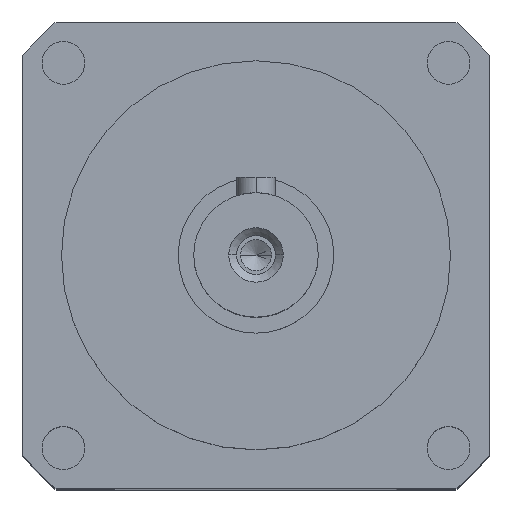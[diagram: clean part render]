
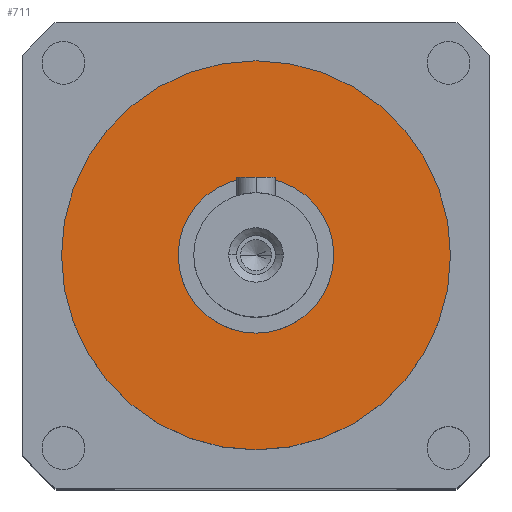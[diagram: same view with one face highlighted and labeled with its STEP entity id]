
A CAD part, top view. The second image highlights one B-rep face of the part: STEP entity #711.
In plain terms, the highlighted planar face has unit normal (0, 0, 1).
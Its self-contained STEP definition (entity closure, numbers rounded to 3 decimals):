
#46 = FACE_OUTER_BOUND ( 'NONE', #3161, .T. ) ;
#91 = EDGE_CURVE ( 'NONE', #4003, #3937, #2908, .T. ) ;
#416 = AXIS2_PLACEMENT_3D ( 'NONE', #1252, #3747, #1899 ) ;
#638 = CARTESIAN_POINT ( 'NONE',  ( 25., 0., 7. ) ) ;
#689 = CIRCLE ( 'NONE', #2304, 25. ) ;
#711 = ADVANCED_FACE ( 'NONE', ( #2537, #46 ), #3437, .F. ) ;
#779 = EDGE_CURVE ( 'NONE', #3937, #4003, #689, .T. ) ;
#909 = CARTESIAN_POINT ( 'NONE',  ( -25., 0., 7. ) ) ;
#1160 = DIRECTION ( 'NONE',  ( 0., 0., -1. ) ) ;
#1250 = EDGE_LOOP ( 'NONE', ( #3103, #2246 ) ) ;
#1252 = CARTESIAN_POINT ( 'NONE',  ( 0., 0., 7. ) ) ;
#1426 = DIRECTION ( 'NONE',  ( 0., 0., -1. ) ) ;
#1442 = CARTESIAN_POINT ( 'NONE',  ( 10., 0., 7. ) ) ;
#1633 = CARTESIAN_POINT ( 'NONE',  ( 0., 0., 7. ) ) ;
#1646 = DIRECTION ( 'NONE',  ( 0., 0., -1. ) ) ;
#1899 = DIRECTION ( 'NONE',  ( -1., 0., 0. ) ) ;
#1935 = DIRECTION ( 'NONE',  ( -1., 0., 0. ) ) ;
#2236 = AXIS2_PLACEMENT_3D ( 'NONE', #3028, #1160, #3336 ) ;
#2246 = ORIENTED_EDGE ( 'NONE', *, *, #3055, .T. ) ;
#2304 = AXIS2_PLACEMENT_3D ( 'NONE', #3495, #1646, #3811 ) ;
#2308 = CIRCLE ( 'NONE', #3695, 10. ) ;
#2337 = EDGE_CURVE ( 'NONE', #2623, #3291, #2308, .T. ) ;
#2375 = ORIENTED_EDGE ( 'NONE', *, *, #91, .F. ) ;
#2412 = CARTESIAN_POINT ( 'NONE',  ( -10., 0., 7. ) ) ;
#2435 = CIRCLE ( 'NONE', #2236, 10. ) ;
#2537 = FACE_BOUND ( 'NONE', #1250, .T. ) ;
#2623 = VERTEX_POINT ( 'NONE', #2412 ) ;
#2908 = CIRCLE ( 'NONE', #3918, 25. ) ;
#3028 = CARTESIAN_POINT ( 'NONE',  ( 0., 0., 7. ) ) ;
#3055 = EDGE_CURVE ( 'NONE', #3291, #2623, #2435, .T. ) ;
#3103 = ORIENTED_EDGE ( 'NONE', *, *, #2337, .T. ) ;
#3161 = EDGE_LOOP ( 'NONE', ( #3516, #2375 ) ) ;
#3271 = CARTESIAN_POINT ( 'NONE',  ( 0., 0., 7. ) ) ;
#3291 = VERTEX_POINT ( 'NONE', #1442 ) ;
#3336 = DIRECTION ( 'NONE',  ( -1., 0., 0. ) ) ;
#3437 = PLANE ( 'NONE',  #416 ) ;
#3495 = CARTESIAN_POINT ( 'NONE',  ( 0., 0., 7. ) ) ;
#3516 = ORIENTED_EDGE ( 'NONE', *, *, #779, .F. ) ;
#3591 = DIRECTION ( 'NONE',  ( -1., 0., 0. ) ) ;
#3695 = AXIS2_PLACEMENT_3D ( 'NONE', #3271, #1426, #3591 ) ;
#3747 = DIRECTION ( 'NONE',  ( 0., 0., -1. ) ) ;
#3795 = DIRECTION ( 'NONE',  ( 0., 0., -1. ) ) ;
#3811 = DIRECTION ( 'NONE',  ( -1., 0., 0. ) ) ;
#3918 = AXIS2_PLACEMENT_3D ( 'NONE', #1633, #3795, #1935 ) ;
#3937 = VERTEX_POINT ( 'NONE', #909 ) ;
#4003 = VERTEX_POINT ( 'NONE', #638 ) ;
